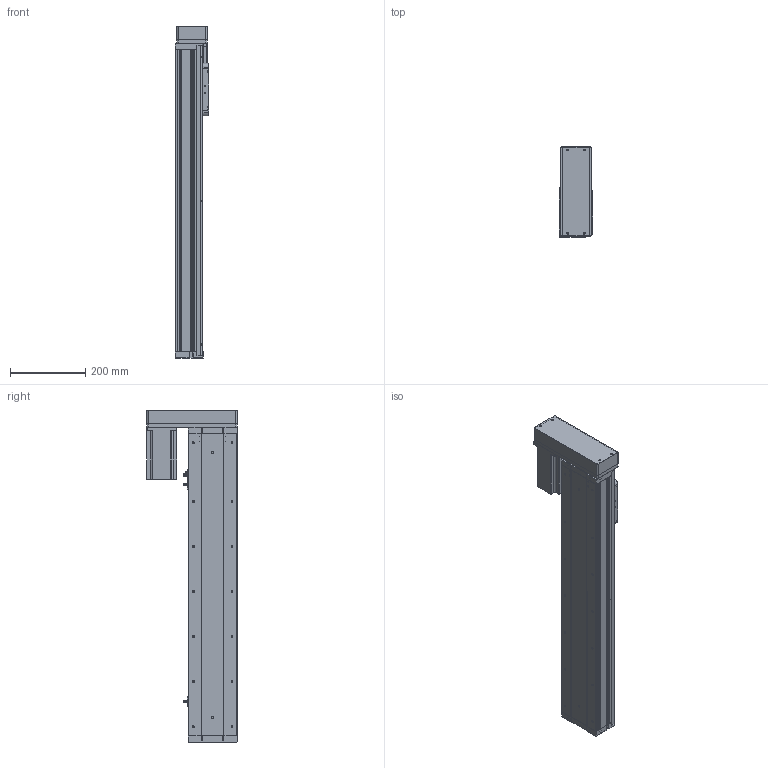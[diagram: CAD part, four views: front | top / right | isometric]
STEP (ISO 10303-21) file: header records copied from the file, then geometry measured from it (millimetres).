
FILE_DESCRIPTION (( 'STEP AP214' ), '1' );
FILE_NAME ('KSD130S--P2010ML-CR-S600.STEP', '2019-09-24T06:16:07', ( '微软用户' ), ( '微软中国' ), 'SwSTEP 2.0', 'SolidWorks 2014', '' );
FILE_SCHEMA (( 'AUTOMOTIVE_DESIGN' ));
Length unit declared in the file: millimetre
Products named in the file (14): 130宽模组保护罩左右折; 台达ECMA－C20807AS伺服电机; 130宽模组马达安装板连板左右折丝杆; 感应片130宽全封闭; U倰嫖萇EEㄜSX672; 130遵裔啣揤啣1; 130宽盖板全封闭-600行程; 130宽滚珠螺姆安装板1防护罩; 130宽滚珠螺姆安装板1; 130宽侧板全封闭-600行程; 130宽全封闭马达安装板丝杠; 130宽全封闭端盖丝杠; 130宽底板全封闭丝杠-600行程; KSD130S--P2010ML-CR-S600
Assembly tree (17 placements, depth 2):
  KSD130S--P2010ML-CR-S600
    130宽底板全封闭丝杠-600行程
    130宽全封闭端盖丝杠
    130宽全封闭马达安装板丝杠
    130宽侧板全封闭-600行程  x2
    130宽滚珠螺姆安装板1
    130宽滚珠螺姆安装板1防护罩
    130宽盖板全封闭-600行程
    130遵裔啣揤啣1  x2
    U倰嫖萇EEㄜSX672  x3
    感应片130宽全封闭
    130宽模组马达安装板连板左右折丝杆
    台达ECMA－C20807AS伺服电机
    130宽模组保护罩左右折
Bounding box: 90 x 240 x 884.5 mm (x, y, z)
Volume: 3538694.4 mm3; surface area: 1104588.6 mm2
Topology: 18 solids, 18 shells, 1458 faces, 3972 edges, 2505 vertices
Faces by surface type: cylinder 640, plane 611, cone 207
Entity records: 44226 total; most frequent: DIRECTION 6731, CARTESIAN_POINT 6637, ORIENTED_EDGE 6238, EDGE_CURVE 3119, AXIS2_PLACEMENT_3D 2415, VERTEX_POINT 2035, VECTOR 1901, LINE 1901
